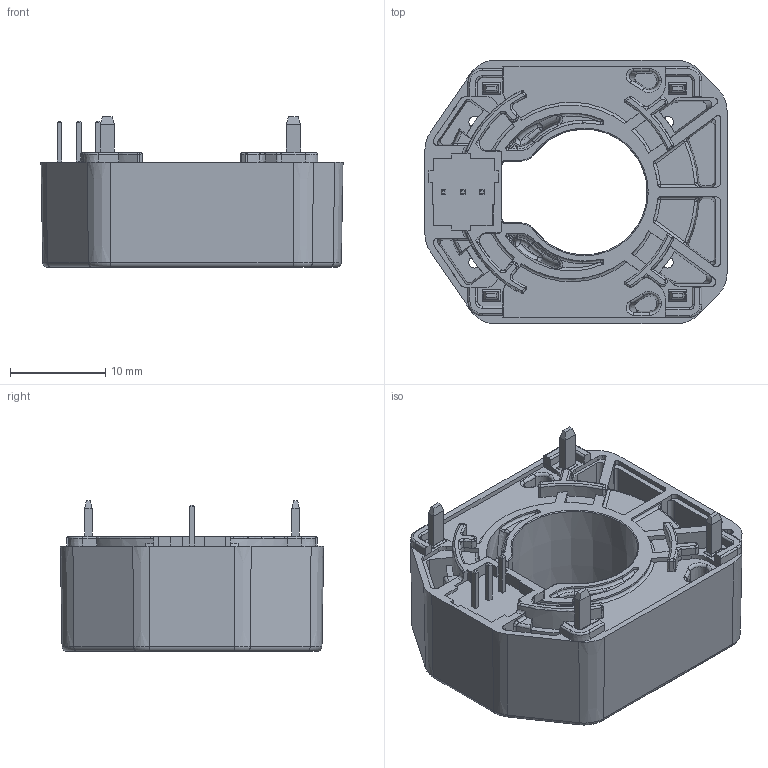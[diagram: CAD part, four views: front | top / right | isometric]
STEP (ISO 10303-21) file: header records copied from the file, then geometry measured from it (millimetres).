
FILE_DESCRIPTION(/* description */ (''),/* implementation_level */ '2;1');
FILE_NAME(/* name */ 'SHK-VBS3.stp',/* time_stamp */ '2021-12-15T14:04:24+08:00',/* author */ (''),/* organization */ (''),/* preprocessor_version */ 'ST-DEVELOPER v15',/* originating_system */ 'SIEMENS PLM Software NX 8.5',/* authorisation */ '');
FILE_SCHEMA (('AUTOMOTIVE_DESIGN { 1 0 10303 214 3 1 1 1 }'));
Length unit declared in the file: millimetre
Products named in the file (1): Gong4A3CDB374yi5
Bounding box: 31.64 x 27.59 x 15.75 mm (x, y, z)
Volume: 6146.3 mm3; surface area: 4518.2 mm2
Topology: 1 solids, 1 shells, 920 faces, 2876 edges, 2000 vertices
Faces by surface type: plane 443, bspline 162, cylinder 143, torus 72, cone 68, sphere 32
Entity records: 37894 total; most frequent: CARTESIAN_POINT 13826, ORIENTED_EDGE 5728, DIRECTION 4167, EDGE_CURVE 2864, VERTEX_POINT 2000, LINE 1545, VECTOR 1545, AXIS2_PLACEMENT_3D 1311
